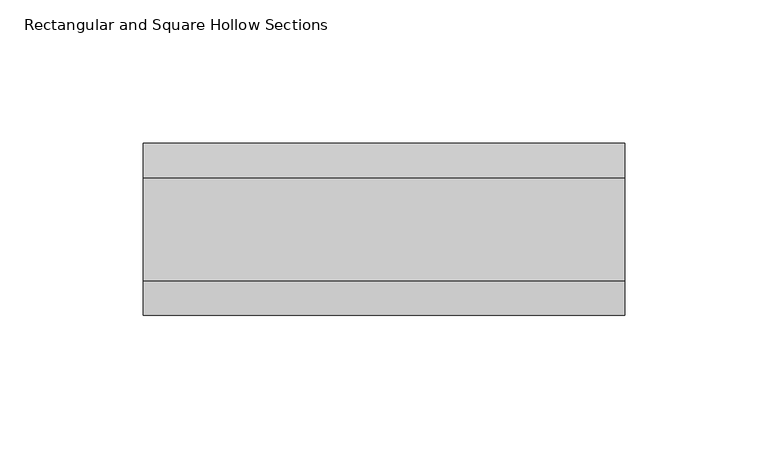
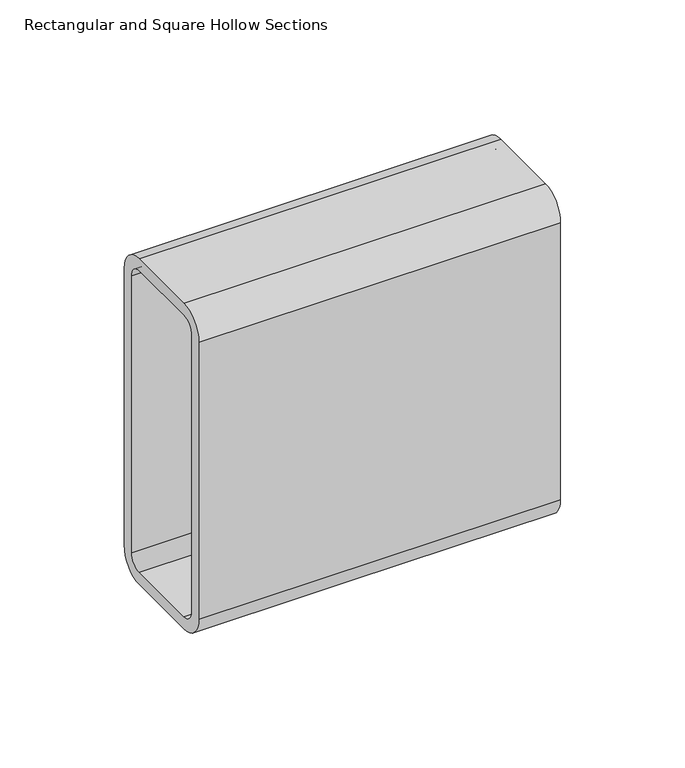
"""IFC4 building model written with IfcOpenShell, lengths in millimetres: beam geometry, Rectangular and Square Hollow Sections : TREC160x60x6."""

from ifc_helpers import new_model, si_unit, point, frame, frame_2d, origin, place, context, project, spatial, polyline, circle_curve, trimmed, segment, composite_curve, outline, extrude, source, transform, mapped, element, save


def rectangular_and_square_hollow_sections_8acbde0b(model_context):
    return source(origin(), model_context, "Body", "SweptSolid", [
        extrude(outline(composite_curve([segment(polyline([(30.0, 68.0), (30.0, -68.0)]), True, "CONTINUOUS"), segment(trimmed(circle_curve(frame_2d((18.0, -68.0)), 12.0), [point((30.0, -68.0))], [point((18.0, -80.0))], False, "CARTESIAN"), True, "CONTINUOUS"), segment(polyline([(18.0, -80.0), (-18.0, -80.0)]), True, "CONTINUOUS"), segment(trimmed(circle_curve(frame_2d((-18.0, -68.0)), 12.0), [point((-18.0, -80.0))], [point((-30.0, -68.0))], False, "CARTESIAN"), True, "CONTINUOUS"), segment(polyline([(-30.0, -68.0), (-30.0, 68.0)]), True, "CONTINUOUS"), segment(trimmed(circle_curve(frame_2d((-18.0, 68.0)), 12.0), [point((-30.0, 68.0))], [point((-18.0, 80.0))], False, "CARTESIAN"), True, "CONTINUOUS"), segment(polyline([(-18.0, 80.0), (18.0, 80.0)]), True, "CONTINUOUS"), segment(trimmed(circle_curve(frame_2d((18.0, 68.0)), 12.0), [point((18.0, 80.0))], [point((30.0, 68.0))], False, "CARTESIAN"), True, "CONTINUOUS")], self_intersect=False), holes=[composite_curve([segment(trimmed(circle_curve(frame_2d((-18.0, 68.0)), 6.0), [point((-18.0, 74.0))], [point((-24.0, 68.0))], True, "CARTESIAN"), True, "CONTINUOUS"), segment(polyline([(-24.0, 68.0), (-24.0, -68.0)]), True, "CONTINUOUS"), segment(trimmed(circle_curve(frame_2d((-18.0, -68.0)), 6.0), [point((-24.0, -68.0))], [point((-18.0, -74.0))], True, "CARTESIAN"), True, "CONTINUOUS"), segment(polyline([(-18.0, -74.0), (18.0, -74.0)]), True, "CONTINUOUS"), segment(trimmed(circle_curve(frame_2d((18.0, -68.0)), 6.0), [point((18.0, -74.0))], [point((24.0, -68.0))], True, "CARTESIAN"), True, "CONTINUOUS"), segment(polyline([(24.0, -68.0), (24.0, 68.0)]), True, "CONTINUOUS"), segment(trimmed(circle_curve(frame_2d((18.0, 68.0)), 6.0), [point((24.0, 68.0))], [point((18.0, 74.0))], True, "CARTESIAN"), True, "CONTINUOUS"), segment(polyline([(18.0, 74.0), (-18.0, 74.0)]), True, "CONTINUOUS")], self_intersect=False)]), frame((-90.5195402, 0.0, 0.0), z_axis=(1.0, 0.0, 0.0), x_axis=(0.0, 1.0, 0.0)), (0.0, 0.0, 1.0), 168.0195402),
    ])


if __name__ == "__main__":
    model = new_model("IFC4")
    model_context = context("Model", 3, world=origin())
    ifc_project = project(units=[si_unit("LENGTHUNIT", "METRE", prefix="MILLI")], contexts=[model_context])
    site = spatial("IfcSite", under=ifc_project)
    building = spatial("IfcBuilding", under=site)
    placement = place(None, origin())
    rectangular_and_square_hollow_sections_shape = rectangular_and_square_hollow_sections_8acbde0b(model_context)
    element("IfcBeam", 1, ObjectType="Rectangular and Square Hollow Sections : TREC160x60x6", at=placement, inside=building, context=model_context, shape_type="MappedRepresentation", body=[
        mapped(rectangular_and_square_hollow_sections_shape, transform((0.0, 0.0, 0.0), x_axis=(1.0, 0.0, 0.0), y_axis=(0.0, 1.0, 0.0), z_axis=(0.0, 0.0, 1.0))),
    ])
    save(model, "model.ifc")
